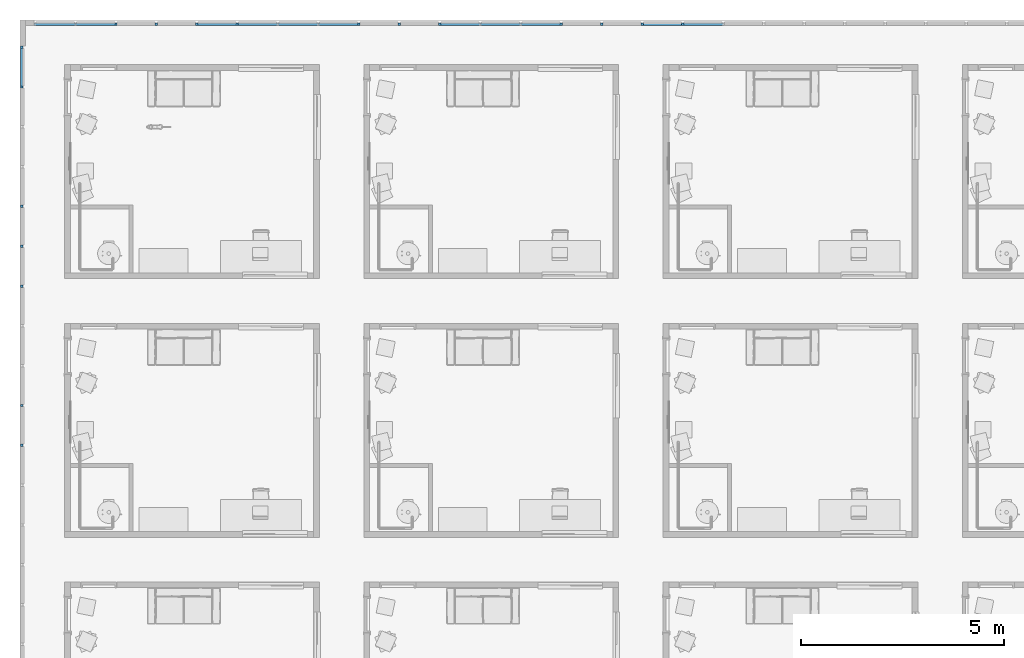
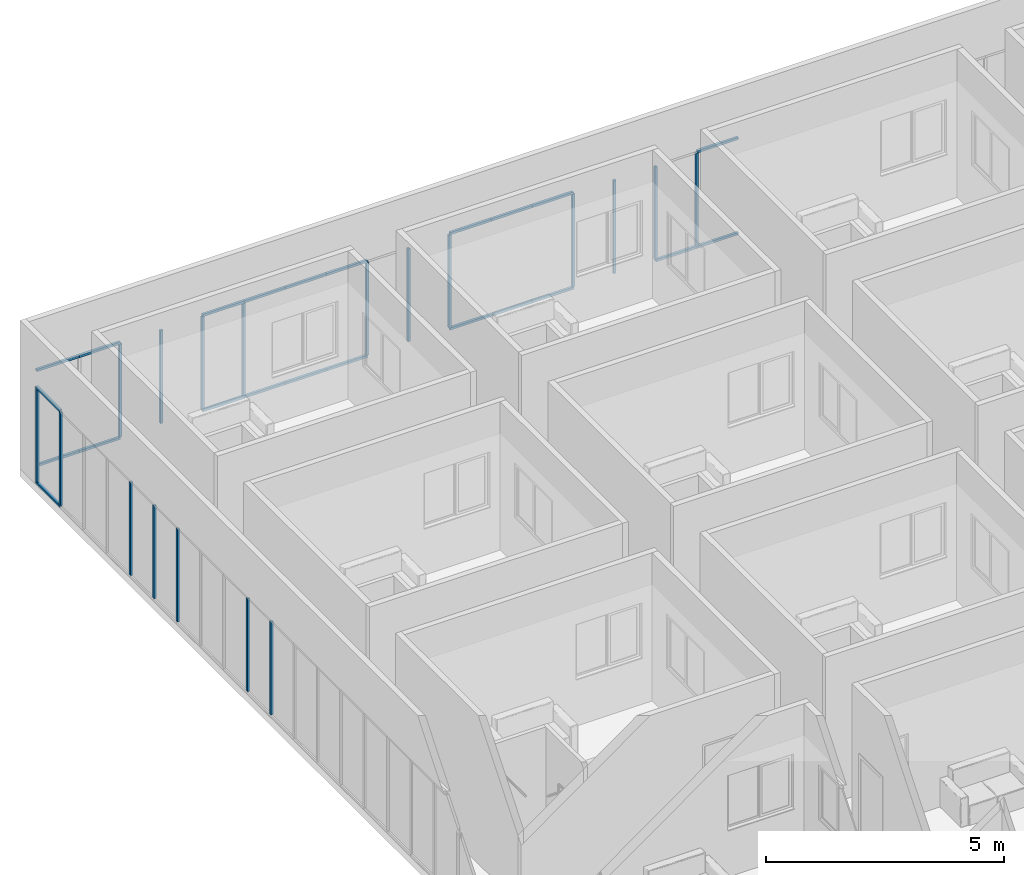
# One storey, part 2 of 71: 41 members, 2 elements without a shape of their own.
"""IFC4 building model written with IfcOpenShell, lengths in centimetres."""

from ifc_helpers import new_model, entity, si_unit, converted_unit, derived_unit, direction, frame, origin, place, context, subcontext, project, spatial, indexed_curve, outline, extrude, source, transform, mapped, material, type_object, type_shapes, element, aggregate, save


model = new_model("IFC4")

# Units and contexts
model_context = context("Model", 3, precision=0.001, world=origin(), true_north=direction((6.123233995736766e-17, 1.0)))
body_context = subcontext(model_context, "Body", "Model", "MODEL_VIEW")
ifc_project = project(units=[si_unit("LENGTHUNIT", "METRE", prefix="CENTI"), si_unit("AREAUNIT", "SQUARE_METRE"), si_unit("VOLUMEUNIT", "CUBIC_METRE"), derived_unit("THERMALTRANSMITTANCEUNIT", [(si_unit("MASSUNIT", "GRAM", prefix="KILO"), 1), (si_unit("THERMODYNAMICTEMPERATUREUNIT", "KELVIN"), -1), (si_unit("TIMEUNIT", "SECOND"), -3)]), converted_unit("PLANEANGLEUNIT", "DEGREE", entity("IfcPlaneAngleMeasure", 0.017453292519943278), si_unit("PLANEANGLEUNIT", "RADIAN"), dimensions=[0, 0, 0, 0, 0, 0, 0]), derived_unit("MASSDENSITYUNIT", [(si_unit("MASSUNIT", "GRAM", prefix="KILO"), 1), (si_unit("LENGTHUNIT", "METRE"), -3)]), derived_unit("VAPORPERMEABILITYUNIT", [(si_unit("LENGTHUNIT", "METRE"), -1), (si_unit("TIMEUNIT", "SECOND"), 1)]), derived_unit("USERDEFINED", [(si_unit("MASSUNIT", "GRAM", prefix="KILO"), 1), (si_unit("TIMEUNIT", "SECOND"), -3), (si_unit("LENGTHUNIT", "METRE"), 3), (si_unit("ELECTRICCURRENTUNIT", "AMPERE"), -2)]), derived_unit("SPECIFICHEATCAPACITYUNIT", [(si_unit("THERMODYNAMICTEMPERATUREUNIT", "KELVIN"), -1), (si_unit("LENGTHUNIT", "METRE"), 2), (si_unit("TIMEUNIT", "SECOND"), -2)]), derived_unit("THERMALCONDUCTANCEUNIT", [(si_unit("MASSUNIT", "GRAM", prefix="KILO"), 1), (si_unit("THERMODYNAMICTEMPERATUREUNIT", "KELVIN"), -1), (si_unit("TIMEUNIT", "SECOND"), -3), (si_unit("LENGTHUNIT", "METRE"), 1)]), si_unit("PRESSUREUNIT", "PASCAL"), derived_unit("MODULUSOFELASTICITYUNIT", [(si_unit("MASSUNIT", "GRAM", prefix="KILO"), 1), (si_unit("LENGTHUNIT", "METRE"), -1), (si_unit("TIMEUNIT", "SECOND"), -2)]), derived_unit("THERMALEXPANSIONCOEFFICIENTUNIT", [(si_unit("THERMODYNAMICTEMPERATUREUNIT", "KELVIN"), -1)])], contexts=[model_context])

# Site, building, storey
site_placement = place(None, origin())
site = spatial("IfcSite", under=ifc_project, at=site_placement, Name="Default", CompositionType="ELEMENT")
building_placement = place(site_placement, origin())
building = spatial("IfcBuilding", under=site, at=building_placement, Name="IDS Escape Game Building", CompositionType="ELEMENT")
storey_placement = place(building_placement, frame((0.0, 0.0, 400.0)))
storey = spatial("IfcBuildingStorey", under=building, at=storey_placement, Name="01_First Floor", CompositionType="ELEMENT", Elevation=399.99999999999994)

# Curtain wall, members
curtain_wall_type = type_object("IfcCurtainWallType", Name="Curtain Wall:ARC_31.3_CWA_LIB_bandraam vast 100cm - profiel 60x60_gen_BERSnl", PredefinedType="NOTDEFINED")
curtain_wall_1_placement = place(storey_placement, frame((0.0, 0.0, -400.0)))
curtain_wall_1 = element("IfcCurtainWall", 1, at=curtain_wall_1_placement, inside=storey, type_object=curtain_wall_type, Name="Curtain Wall:ARC_31.3_CWA_LIB_bandraam vast 100cm - profiel 60x60_gen_BERSnl", ObjectType="Curtain Wall:ARC_31.3_CWA_LIB_bandraam vast 100cm - profiel 60x60_gen_BERSnl", PredefinedType="NOTDEFINED")
ifc_material = material(Name="<Unnamed>")
member_type_1 = type_object("IfcMemberType", Name="Rectangular Mullion:30-_Stijl_Rechthoek_Midden_B60xD60", PredefinedType="MULLION", material=ifc_material)
shared_shape_1 = source(origin(), body_context, "Body", "SweptSolid", [
    extrude(outline(indexed_curve([(-3.0, -3.0), (3.0, -3.0), (3.0, 3.0), (-3.0, 3.0), (-3.0, -3.0)], self_intersect=False)), frame((-3.0, 3.0, -102.84313728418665), z_axis=(0.0, 0.0, 1.0), x_axis=(-1.0, 0.0, 0.0)), (0.0, 0.0, 1.0), 102.84313728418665),
])
type_shapes(member_type_1, [shared_shape_1])
member_1_placement = place(curtain_wall_1_placement, frame((19.84313728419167, 3182.0, 650.0), z_axis=(1.0, 0.0, 0.0), x_axis=(0.0, 0.0, 1.0)))
member_1 = element("IfcMember", 2, at=member_1_placement, type_object=member_type_1, material=ifc_material, Name="Rectangular Mullion:30-_Stijl_Rechthoek_Midden_B60xD60", ObjectType="Rectangular Mullion:30-_Stijl_Rechthoek_Midden_B60xD60", PredefinedType="MULLION", context=body_context, shape_type="MappedRepresentation", body=[
    mapped(shared_shape_1, transform((0.0, 0.0, 0.0), scale=1.0)),
])
member_type_2 = type_object("IfcMemberType", Name="Rectangular Mullion:30-_Stijl_Rechthoek_Midden_B60xD60", PredefinedType="MULLION", material=ifc_material)
shared_shape_2 = source(origin(), body_context, "Body", "SweptSolid", [
    extrude(outline(indexed_curve([(-3.0, -3.0), (3.0, -3.0), (3.0, 3.0), (-3.0, 3.0), (-3.0, -3.0)], self_intersect=False)), frame((-3.0, 3.0, -99.84313725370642), z_axis=(0.0, 0.0, 1.0), x_axis=(-1.0, 0.0, 0.0)), (0.0, 0.0, 1.0), 99.84313725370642),
])
type_shapes(member_type_2, [shared_shape_2])
member_2_placement = place(curtain_wall_1_placement, frame((119.68627453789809, 3182.0, 650.0), z_axis=(1.0, 0.0, 0.0), x_axis=(0.0, 0.0, 1.0)))
member_2 = element("IfcMember", 3, at=member_2_placement, type_object=member_type_2, material=ifc_material, Name="Rectangular Mullion:30-_Stijl_Rechthoek_Midden_B60xD60", ObjectType="Rectangular Mullion:30-_Stijl_Rechthoek_Midden_B60xD60", PredefinedType="MULLION", context=body_context, shape_type="MappedRepresentation", body=[
    mapped(shared_shape_2, transform((0.0, 0.0, 0.0), scale=1.0)),
])
member_3_placement = place(curtain_wall_1_placement, frame((419.2156862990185, 3182.0, 650.0), z_axis=(1.0, 0.0, 0.0), x_axis=(0.0, 0.0, 1.0)))
member_3 = element("IfcMember", 4, at=member_3_placement, type_object=member_type_2, material=ifc_material, Name="Rectangular Mullion:30-_Stijl_Rechthoek_Midden_B60xD60", ObjectType="Rectangular Mullion:30-_Stijl_Rechthoek_Midden_B60xD60", PredefinedType="MULLION", context=body_context, shape_type="MappedRepresentation", body=[
    mapped(shared_shape_2, transform((0.0, 0.0, 0.0), scale=1.0)),
])
member_4_placement = place(curtain_wall_1_placement, frame((519.0588235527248, 3182.0, 650.0), z_axis=(1.0, 0.0, 0.0), x_axis=(0.0, 0.0, 1.0)))
member_4 = element("IfcMember", 5, at=member_4_placement, type_object=member_type_2, material=ifc_material, Name="Rectangular Mullion:30-_Stijl_Rechthoek_Midden_B60xD60", ObjectType="Rectangular Mullion:30-_Stijl_Rechthoek_Midden_B60xD60", PredefinedType="MULLION", context=body_context, shape_type="MappedRepresentation", body=[
    mapped(shared_shape_2, transform((0.0, 0.0, 0.0), scale=1.0)),
])
member_5_placement = place(curtain_wall_1_placement, frame((618.9019608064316, 3182.0, 650.0), z_axis=(1.0, 0.0, 0.0), x_axis=(0.0, 0.0, 1.0)))
member_5 = element("IfcMember", 6, at=member_5_placement, type_object=member_type_2, material=ifc_material, Name="Rectangular Mullion:30-_Stijl_Rechthoek_Midden_B60xD60", ObjectType="Rectangular Mullion:30-_Stijl_Rechthoek_Midden_B60xD60", PredefinedType="MULLION", context=body_context, shape_type="MappedRepresentation", body=[
    mapped(shared_shape_2, transform((0.0, 0.0, 0.0), scale=1.0)),
])
member_6_placement = place(curtain_wall_1_placement, frame((718.7450980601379, 3182.0, 650.0), z_axis=(1.0, 0.0, 0.0), x_axis=(0.0, 0.0, 1.0)))
member_6 = element("IfcMember", 7, at=member_6_placement, type_object=member_type_2, material=ifc_material, Name="Rectangular Mullion:30-_Stijl_Rechthoek_Midden_B60xD60", ObjectType="Rectangular Mullion:30-_Stijl_Rechthoek_Midden_B60xD60", PredefinedType="MULLION", context=body_context, shape_type="MappedRepresentation", body=[
    mapped(shared_shape_2, transform((0.0, 0.0, 0.0), scale=1.0)),
])
member_7_placement = place(curtain_wall_1_placement, frame((1018.2745098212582, 3182.0, 650.0), z_axis=(1.0, 0.0, 0.0), x_axis=(0.0, 0.0, 1.0)))
member_7 = element("IfcMember", 8, at=member_7_placement, type_object=member_type_2, material=ifc_material, Name="Rectangular Mullion:30-_Stijl_Rechthoek_Midden_B60xD60", ObjectType="Rectangular Mullion:30-_Stijl_Rechthoek_Midden_B60xD60", PredefinedType="MULLION", context=body_context, shape_type="MappedRepresentation", body=[
    mapped(shared_shape_2, transform((0.0, 0.0, 0.0), scale=1.0)),
])
member_8_placement = place(curtain_wall_1_placement, frame((1118.1176470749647, 3182.0, 650.0), z_axis=(1.0, 0.0, 0.0), x_axis=(0.0, 0.0, 1.0)))
member_8 = element("IfcMember", 9, at=member_8_placement, type_object=member_type_2, material=ifc_material, Name="Rectangular Mullion:30-_Stijl_Rechthoek_Midden_B60xD60", ObjectType="Rectangular Mullion:30-_Stijl_Rechthoek_Midden_B60xD60", PredefinedType="MULLION", context=body_context, shape_type="MappedRepresentation", body=[
    mapped(shared_shape_2, transform((0.0, 0.0, 0.0), scale=1.0)),
])
member_9_placement = place(curtain_wall_1_placement, frame((1217.960784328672, 3182.0, 650.0), z_axis=(1.0, 0.0, 0.0), x_axis=(0.0, 0.0, 1.0)))
member_9 = element("IfcMember", 10, at=member_9_placement, type_object=member_type_2, material=ifc_material, Name="Rectangular Mullion:30-_Stijl_Rechthoek_Midden_B60xD60", ObjectType="Rectangular Mullion:30-_Stijl_Rechthoek_Midden_B60xD60", PredefinedType="MULLION", context=body_context, shape_type="MappedRepresentation", body=[
    mapped(shared_shape_2, transform((0.0, 0.0, 0.0), scale=1.0)),
])
member_10_placement = place(curtain_wall_1_placement, frame((1617.3333333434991, 3182.0, 650.0), z_axis=(1.0, 0.0, 0.0), x_axis=(0.0, 0.0, 1.0)))
member_10 = element("IfcMember", 11, at=member_10_placement, type_object=member_type_2, material=ifc_material, Name="Rectangular Mullion:30-_Stijl_Rechthoek_Midden_B60xD60", ObjectType="Rectangular Mullion:30-_Stijl_Rechthoek_Midden_B60xD60", PredefinedType="MULLION", context=body_context, shape_type="MappedRepresentation", body=[
    mapped(shared_shape_2, transform((0.0, 0.0, 0.0), scale=1.0)),
])
member_type_3 = type_object("IfcMemberType", Name="Rectangular Mullion:30-_Stijl_Rechthoek_Midden_B60xD60", PredefinedType="MULLION", material=ifc_material)
shared_shape_3 = source(origin(), body_context, "Body", "SweptSolid", [
    extrude(outline(indexed_curve([(-3.0, -3.0), (3.0, -3.0), (3.0, 3.0), (-3.0, 3.0), (-3.0, -3.0)], self_intersect=False)), frame((-3.0, 3.0, -102.84313728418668), z_axis=(0.0, 0.0, 1.0), x_axis=(-1.0, 0.0, 0.0)), (0.0, 0.0, 1.0), 102.84313728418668),
])
type_shapes(member_type_3, [shared_shape_3])
member_11_placement = place(curtain_wall_1_placement, frame((-83.0, 3182.0, 400.0), z_axis=(-1.0, 0.0, 0.0), x_axis=(0.0, 0.0, -1.0)))
member_11 = element("IfcMember", 12, at=member_11_placement, type_object=member_type_3, material=ifc_material, Name="Rectangular Mullion:30-_Stijl_Rechthoek_Midden_B60xD60", ObjectType="Rectangular Mullion:30-_Stijl_Rechthoek_Midden_B60xD60", PredefinedType="MULLION", context=body_context, shape_type="MappedRepresentation", body=[
    mapped(shared_shape_3, transform((0.0, 0.0, 0.0), scale=1.0)),
])
member_type_4 = type_object("IfcMemberType", Name="Rectangular Mullion:30-_Stijl_Rechthoek_Midden_B60xD60", PredefinedType="MULLION", material=ifc_material)
shared_shape_4 = source(origin(), body_context, "Body", "SweptSolid", [
    extrude(outline(indexed_curve([(-3.0, -3.0), (3.0, -3.0), (3.0, 3.0), (-3.0, 3.0), (-3.0, -3.0)], self_intersect=False)), frame((-3.0, 3.0, -99.84313725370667), z_axis=(0.0, 0.0, 1.0), x_axis=(-1.0, 0.0, 0.0)), (0.0, 0.0, 1.0), 99.84313725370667),
])
type_shapes(member_type_4, [shared_shape_4])
member_12_placement = place(curtain_wall_1_placement, frame((19.843137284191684, 3182.0, 400.0), z_axis=(-1.0, 0.0, 0.0), x_axis=(0.0, 0.0, -1.0)))
member_12 = element("IfcMember", 13, at=member_12_placement, type_object=member_type_4, material=ifc_material, Name="Rectangular Mullion:30-_Stijl_Rechthoek_Midden_B60xD60", ObjectType="Rectangular Mullion:30-_Stijl_Rechthoek_Midden_B60xD60", PredefinedType="MULLION", context=body_context, shape_type="MappedRepresentation", body=[
    mapped(shared_shape_4, transform((0.0, 0.0, 0.0), scale=1.0)),
])
member_13_placement = place(curtain_wall_1_placement, frame((319.3725490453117, 3182.0, 400.0), z_axis=(-1.0, 0.0, 0.0), x_axis=(0.0, 0.0, -1.0)))
member_13 = element("IfcMember", 14, at=member_13_placement, type_object=member_type_4, material=ifc_material, Name="Rectangular Mullion:30-_Stijl_Rechthoek_Midden_B60xD60", ObjectType="Rectangular Mullion:30-_Stijl_Rechthoek_Midden_B60xD60", PredefinedType="MULLION", context=body_context, shape_type="MappedRepresentation", body=[
    mapped(shared_shape_4, transform((0.0, 0.0, 0.0), scale=1.0)),
])
member_14_placement = place(curtain_wall_1_placement, frame((419.2156862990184, 3182.0, 400.0), z_axis=(-1.0, 0.0, 0.0), x_axis=(0.0, 0.0, -1.0)))
member_14 = element("IfcMember", 15, at=member_14_placement, type_object=member_type_4, material=ifc_material, Name="Rectangular Mullion:30-_Stijl_Rechthoek_Midden_B60xD60", ObjectType="Rectangular Mullion:30-_Stijl_Rechthoek_Midden_B60xD60", PredefinedType="MULLION", context=body_context, shape_type="MappedRepresentation", body=[
    mapped(shared_shape_4, transform((0.0, 0.0, 0.0), scale=1.0)),
])
member_15_placement = place(curtain_wall_1_placement, frame((519.0588235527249, 3182.0, 400.0), z_axis=(-1.0, 0.0, 0.0), x_axis=(0.0, 0.0, -1.0)))
member_15 = element("IfcMember", 16, at=member_15_placement, type_object=member_type_4, material=ifc_material, Name="Rectangular Mullion:30-_Stijl_Rechthoek_Midden_B60xD60", ObjectType="Rectangular Mullion:30-_Stijl_Rechthoek_Midden_B60xD60", PredefinedType="MULLION", context=body_context, shape_type="MappedRepresentation", body=[
    mapped(shared_shape_4, transform((0.0, 0.0, 0.0), scale=1.0)),
])
member_16_placement = place(curtain_wall_1_placement, frame((618.9019608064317, 3182.0, 400.0), z_axis=(-1.0, 0.0, 0.0), x_axis=(0.0, 0.0, -1.0)))
member_16 = element("IfcMember", 17, at=member_16_placement, type_object=member_type_4, material=ifc_material, Name="Rectangular Mullion:30-_Stijl_Rechthoek_Midden_B60xD60", ObjectType="Rectangular Mullion:30-_Stijl_Rechthoek_Midden_B60xD60", PredefinedType="MULLION", context=body_context, shape_type="MappedRepresentation", body=[
    mapped(shared_shape_4, transform((0.0, 0.0, 0.0), scale=1.0)),
])
member_17_placement = place(curtain_wall_1_placement, frame((918.4313725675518, 3182.0, 400.0), z_axis=(-1.0, 0.0, 0.0), x_axis=(0.0, 0.0, -1.0)))
member_17 = element("IfcMember", 18, at=member_17_placement, type_object=member_type_4, material=ifc_material, Name="Rectangular Mullion:30-_Stijl_Rechthoek_Midden_B60xD60", ObjectType="Rectangular Mullion:30-_Stijl_Rechthoek_Midden_B60xD60", PredefinedType="MULLION", context=body_context, shape_type="MappedRepresentation", body=[
    mapped(shared_shape_4, transform((0.0, 0.0, 0.0), scale=1.0)),
])
member_18_placement = place(curtain_wall_1_placement, frame((1018.2745098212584, 3182.0, 400.0), z_axis=(-1.0, 0.0, 0.0), x_axis=(0.0, 0.0, -1.0)))
member_18 = element("IfcMember", 19, at=member_18_placement, type_object=member_type_4, material=ifc_material, Name="Rectangular Mullion:30-_Stijl_Rechthoek_Midden_B60xD60", ObjectType="Rectangular Mullion:30-_Stijl_Rechthoek_Midden_B60xD60", PredefinedType="MULLION", context=body_context, shape_type="MappedRepresentation", body=[
    mapped(shared_shape_4, transform((0.0, 0.0, 0.0), scale=1.0)),
])
member_19_placement = place(curtain_wall_1_placement, frame((1118.1176470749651, 3182.0, 400.0), z_axis=(-1.0, 0.0, 0.0), x_axis=(0.0, 0.0, -1.0)))
member_19 = element("IfcMember", 20, at=member_19_placement, type_object=member_type_4, material=ifc_material, Name="Rectangular Mullion:30-_Stijl_Rechthoek_Midden_B60xD60", ObjectType="Rectangular Mullion:30-_Stijl_Rechthoek_Midden_B60xD60", PredefinedType="MULLION", context=body_context, shape_type="MappedRepresentation", body=[
    mapped(shared_shape_4, transform((0.0, 0.0, 0.0), scale=1.0)),
])
member_20_placement = place(curtain_wall_1_placement, frame((1417.6470588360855, 3182.0, 400.0), z_axis=(-1.0, 0.0, 0.0), x_axis=(0.0, 0.0, -1.0)))
member_20 = element("IfcMember", 21, at=member_20_placement, type_object=member_type_4, material=ifc_material, Name="Rectangular Mullion:30-_Stijl_Rechthoek_Midden_B60xD60", ObjectType="Rectangular Mullion:30-_Stijl_Rechthoek_Midden_B60xD60", PredefinedType="MULLION", context=body_context, shape_type="MappedRepresentation", body=[
    mapped(shared_shape_4, transform((0.0, 0.0, 0.0), scale=1.0)),
])
member_21_placement = place(curtain_wall_1_placement, frame((1517.4901960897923, 3182.0, 400.0), z_axis=(-1.0, 0.0, 0.0), x_axis=(0.0, 0.0, -1.0)))
member_21 = element("IfcMember", 22, at=member_21_placement, type_object=member_type_4, material=ifc_material, Name="Rectangular Mullion:30-_Stijl_Rechthoek_Midden_B60xD60", ObjectType="Rectangular Mullion:30-_Stijl_Rechthoek_Midden_B60xD60", PredefinedType="MULLION", context=body_context, shape_type="MappedRepresentation", body=[
    mapped(shared_shape_4, transform((0.0, 0.0, 0.0), scale=1.0)),
])

# Curtain wall, member
curtain_wall_2_placement = place(storey_placement, frame((0.0, 0.0, -400.0)))
curtain_wall_2 = element("IfcCurtainWall", 23, at=curtain_wall_2_placement, inside=storey, type_object=curtain_wall_type, Name="Curtain Wall:ARC_31.3_CWA_LIB_bandraam vast 100cm - profiel 60x60_gen_BERSnl", ObjectType="Curtain Wall:ARC_31.3_CWA_LIB_bandraam vast 100cm - profiel 60x60_gen_BERSnl", PredefinedType="NOTDEFINED")
member_type_5 = type_object("IfcMemberType", Name="Rectangular Mullion:30-_Stijl_Rechthoek_Midden_B60xD60", PredefinedType="MULLION", material=ifc_material)
shared_shape_5 = source(origin(), body_context, "Body", "SweptSolid", [
    extrude(outline(indexed_curve([(-3.0, -3.0), (3.0, -3.0), (3.0, 3.0), (-3.0, 3.0), (-3.0, -3.0)], self_intersect=False)), frame((-3.0, 3.0, -238.0), z_axis=(0.0, 0.0, 1.0), x_axis=(-1.0, 0.0, 0.0)), (0.0, 0.0, 1.0), 238.00000000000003),
])
type_shapes(member_type_5, [shared_shape_5])
member_22_placement = place(curtain_wall_2_placement, frame((-110.0, 3125.0, 644.0), z_axis=(0.0, 0.0, 1.0), x_axis=(0.0, 1.0, 0.0)))
member_22 = element("IfcMember", 24, at=member_22_placement, type_object=member_type_5, material=ifc_material, Name="Rectangular Mullion:30-_Stijl_Rechthoek_Midden_B60xD60", ObjectType="Rectangular Mullion:30-_Stijl_Rechthoek_Midden_B60xD60", PredefinedType="MULLION", context=body_context, shape_type="MappedRepresentation", body=[
    mapped(shared_shape_5, transform((0.0, 0.0, 0.0), scale=1.0)),
])

# Member
member_type_6 = type_object("IfcMemberType", Name="Rectangular Mullion:30-_Stijl_Rechthoek_Midden_B60xD60", PredefinedType="MULLION", material=ifc_material)
shared_shape_6 = source(origin(), body_context, "Body", "SweptSolid", [
    extrude(outline(indexed_curve([(-3.0, -3.0), (3.0, -3.0), (3.0, 3.0), (-3.0, 3.0), (-3.0, -3.0)], self_intersect=False)), frame((0.0, 3.0, -238.0), z_axis=(0.0, 0.0, 1.0), x_axis=(-1.0, 0.0, 0.0)), (0.0, 0.0, 1.0), 238.00000000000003),
])
type_shapes(member_type_6, [shared_shape_6])
member_23_placement = place(curtain_wall_1_placement, frame((119.68627453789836, 3182.0, 406.0), z_axis=(0.0, 0.0, -1.0), x_axis=(1.0, 0.0, 0.0)))
member_23 = element("IfcMember", 25, at=member_23_placement, type_object=member_type_6, material=ifc_material, Name="Rectangular Mullion:30-_Stijl_Rechthoek_Midden_B60xD60", ObjectType="Rectangular Mullion:30-_Stijl_Rechthoek_Midden_B60xD60", PredefinedType="MULLION", context=body_context, shape_type="MappedRepresentation", body=[
    mapped(shared_shape_6, transform((0.0, 0.0, 0.0), scale=1.0)),
])

member_24_placement = place(curtain_wall_1_placement, frame((219.52941179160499, 3182.0, 406.0), z_axis=(0.0, 0.0, -1.0), x_axis=(1.0, 0.0, 0.0)))
member_24 = element("IfcMember", 26, at=member_24_placement, type_object=member_type_6, material=ifc_material, Name="Rectangular Mullion:30-_Stijl_Rechthoek_Midden_B60xD60", ObjectType="Rectangular Mullion:30-_Stijl_Rechthoek_Midden_B60xD60", PredefinedType="MULLION", context=body_context, shape_type="MappedRepresentation", body=[
    mapped(shared_shape_6, transform((0.0, 0.0, 0.0), scale=1.0)),
])

member_25_placement = place(curtain_wall_1_placement, frame((319.3725490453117, 3182.0, 406.0), z_axis=(0.0, 0.0, -1.0), x_axis=(1.0, 0.0, 0.0)))
member_25 = element("IfcMember", 27, at=member_25_placement, type_object=member_type_6, material=ifc_material, Name="Rectangular Mullion:30-_Stijl_Rechthoek_Midden_B60xD60", ObjectType="Rectangular Mullion:30-_Stijl_Rechthoek_Midden_B60xD60", PredefinedType="MULLION", context=body_context, shape_type="MappedRepresentation", body=[
    mapped(shared_shape_6, transform((0.0, 0.0, 0.0), scale=1.0)),
])

member_26_placement = place(curtain_wall_1_placement, frame((419.2156862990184, 3182.0, 406.0), z_axis=(0.0, 0.0, -1.0), x_axis=(1.0, 0.0, 0.0)))
member_26 = element("IfcMember", 28, at=member_26_placement, type_object=member_type_6, material=ifc_material, Name="Rectangular Mullion:30-_Stijl_Rechthoek_Midden_B60xD60", ObjectType="Rectangular Mullion:30-_Stijl_Rechthoek_Midden_B60xD60", PredefinedType="MULLION", context=body_context, shape_type="MappedRepresentation", body=[
    mapped(shared_shape_6, transform((0.0, 0.0, 0.0), scale=1.0)),
])

member_27_placement = place(curtain_wall_1_placement, frame((718.7450980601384, 3182.0, 406.0), z_axis=(0.0, 0.0, -1.0), x_axis=(1.0, 0.0, 0.0)))
member_27 = element("IfcMember", 29, at=member_27_placement, type_object=member_type_6, material=ifc_material, Name="Rectangular Mullion:30-_Stijl_Rechthoek_Midden_B60xD60", ObjectType="Rectangular Mullion:30-_Stijl_Rechthoek_Midden_B60xD60", PredefinedType="MULLION", context=body_context, shape_type="MappedRepresentation", body=[
    mapped(shared_shape_6, transform((0.0, 0.0, 0.0), scale=1.0)),
])

member_28_placement = place(curtain_wall_1_placement, frame((818.5882353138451, 3182.0, 406.0), z_axis=(0.0, 0.0, -1.0), x_axis=(1.0, 0.0, 0.0)))
member_28 = element("IfcMember", 30, at=member_28_placement, type_object=member_type_6, material=ifc_material, Name="Rectangular Mullion:30-_Stijl_Rechthoek_Midden_B60xD60", ObjectType="Rectangular Mullion:30-_Stijl_Rechthoek_Midden_B60xD60", PredefinedType="MULLION", context=body_context, shape_type="MappedRepresentation", body=[
    mapped(shared_shape_6, transform((0.0, 0.0, 0.0), scale=1.0)),
])

member_29_placement = place(curtain_wall_1_placement, frame((918.4313725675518, 3182.0, 406.0), z_axis=(0.0, 0.0, -1.0), x_axis=(1.0, 0.0, 0.0)))
member_29 = element("IfcMember", 31, at=member_29_placement, type_object=member_type_6, material=ifc_material, Name="Rectangular Mullion:30-_Stijl_Rechthoek_Midden_B60xD60", ObjectType="Rectangular Mullion:30-_Stijl_Rechthoek_Midden_B60xD60", PredefinedType="MULLION", context=body_context, shape_type="MappedRepresentation", body=[
    mapped(shared_shape_6, transform((0.0, 0.0, 0.0), scale=1.0)),
])

member_30_placement = place(curtain_wall_1_placement, frame((1217.960784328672, 3182.0, 406.0), z_axis=(0.0, 0.0, -1.0), x_axis=(1.0, 0.0, 0.0)))
member_30 = element("IfcMember", 32, at=member_30_placement, type_object=member_type_6, material=ifc_material, Name="Rectangular Mullion:30-_Stijl_Rechthoek_Midden_B60xD60", ObjectType="Rectangular Mullion:30-_Stijl_Rechthoek_Midden_B60xD60", PredefinedType="MULLION", context=body_context, shape_type="MappedRepresentation", body=[
    mapped(shared_shape_6, transform((0.0, 0.0, 0.0), scale=1.0)),
])

member_31_placement = place(curtain_wall_1_placement, frame((1317.8039215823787, 3182.0, 406.0), z_axis=(0.0, 0.0, -1.0), x_axis=(1.0, 0.0, 0.0)))
member_31 = element("IfcMember", 33, at=member_31_placement, type_object=member_type_6, material=ifc_material, Name="Rectangular Mullion:30-_Stijl_Rechthoek_Midden_B60xD60", ObjectType="Rectangular Mullion:30-_Stijl_Rechthoek_Midden_B60xD60", PredefinedType="MULLION", context=body_context, shape_type="MappedRepresentation", body=[
    mapped(shared_shape_6, transform((0.0, 0.0, 0.0), scale=1.0)),
])

member_32_placement = place(curtain_wall_1_placement, frame((1417.6470588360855, 3182.0, 406.0), z_axis=(0.0, 0.0, -1.0), x_axis=(1.0, 0.0, 0.0)))
member_32 = element("IfcMember", 34, at=member_32_placement, type_object=member_type_6, material=ifc_material, Name="Rectangular Mullion:30-_Stijl_Rechthoek_Midden_B60xD60", ObjectType="Rectangular Mullion:30-_Stijl_Rechthoek_Midden_B60xD60", PredefinedType="MULLION", context=body_context, shape_type="MappedRepresentation", body=[
    mapped(shared_shape_6, transform((0.0, 0.0, 0.0), scale=1.0)),
])

member_33_placement = place(curtain_wall_1_placement, frame((1517.4901960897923, 3182.0, 406.0), z_axis=(0.0, 0.0, -1.0), x_axis=(1.0, 0.0, 0.0)))
member_33 = element("IfcMember", 35, at=member_33_placement, type_object=member_type_6, material=ifc_material, Name="Rectangular Mullion:30-_Stijl_Rechthoek_Midden_B60xD60", ObjectType="Rectangular Mullion:30-_Stijl_Rechthoek_Midden_B60xD60", PredefinedType="MULLION", context=body_context, shape_type="MappedRepresentation", body=[
    mapped(shared_shape_6, transform((0.0, 0.0, 0.0), scale=1.0)),
])

aggregate(curtain_wall_1, [member_1, member_2, member_3, member_4, member_5, member_6, member_7, member_8, member_9, member_10, member_11, member_12, member_13, member_14, member_15, member_16, member_17, member_18, member_19, member_20, member_21, member_23, member_24, member_25, member_26, member_27, member_28, member_29, member_30, member_31, member_32, member_33])

member_34_placement = place(curtain_wall_2_placement, frame((-110.0, 3023.80645158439, 406.0), z_axis=(0.0, 0.0, -1.0), x_axis=(0.0, -1.0, 0.0)))
member_34 = element("IfcMember", 36, at=member_34_placement, type_object=member_type_6, material=ifc_material, Name="Rectangular Mullion:30-_Stijl_Rechthoek_Midden_B60xD60", ObjectType="Rectangular Mullion:30-_Stijl_Rechthoek_Midden_B60xD60", PredefinedType="MULLION", context=body_context, shape_type="MappedRepresentation", body=[
    mapped(shared_shape_6, transform((0.0, 0.0, 0.0), scale=1.0)),
])

member_35_placement = place(curtain_wall_2_placement, frame((-110.0, 2729.2258064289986, 406.0), z_axis=(0.0, 0.0, -1.0), x_axis=(0.0, -1.0, 0.0)))
member_35 = element("IfcMember", 37, at=member_35_placement, type_object=member_type_6, material=ifc_material, Name="Rectangular Mullion:30-_Stijl_Rechthoek_Midden_B60xD60", ObjectType="Rectangular Mullion:30-_Stijl_Rechthoek_Midden_B60xD60", PredefinedType="MULLION", context=body_context, shape_type="MappedRepresentation", body=[
    mapped(shared_shape_6, transform((0.0, 0.0, 0.0), scale=1.0)),
])

member_36_placement = place(curtain_wall_2_placement, frame((-110.0, 2631.0322580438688, 406.0), z_axis=(0.0, 0.0, -1.0), x_axis=(0.0, -1.0, 0.0)))
member_36 = element("IfcMember", 38, at=member_36_placement, type_object=member_type_6, material=ifc_material, Name="Rectangular Mullion:30-_Stijl_Rechthoek_Midden_B60xD60", ObjectType="Rectangular Mullion:30-_Stijl_Rechthoek_Midden_B60xD60", PredefinedType="MULLION", context=body_context, shape_type="MappedRepresentation", body=[
    mapped(shared_shape_6, transform((0.0, 0.0, 0.0), scale=1.0)),
])

member_37_placement = place(curtain_wall_2_placement, frame((-110.0, 2532.8387096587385, 406.0), z_axis=(0.0, 0.0, -1.0), x_axis=(0.0, -1.0, 0.0)))
member_37 = element("IfcMember", 39, at=member_37_placement, type_object=member_type_6, material=ifc_material, Name="Rectangular Mullion:30-_Stijl_Rechthoek_Midden_B60xD60", ObjectType="Rectangular Mullion:30-_Stijl_Rechthoek_Midden_B60xD60", PredefinedType="MULLION", context=body_context, shape_type="MappedRepresentation", body=[
    mapped(shared_shape_6, transform((0.0, 0.0, 0.0), scale=1.0)),
])

member_38_placement = place(curtain_wall_2_placement, frame((-110.0, 2238.258064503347, 406.0), z_axis=(0.0, 0.0, -1.0), x_axis=(0.0, -1.0, 0.0)))
member_38 = element("IfcMember", 40, at=member_38_placement, type_object=member_type_6, material=ifc_material, Name="Rectangular Mullion:30-_Stijl_Rechthoek_Midden_B60xD60", ObjectType="Rectangular Mullion:30-_Stijl_Rechthoek_Midden_B60xD60", PredefinedType="MULLION", context=body_context, shape_type="MappedRepresentation", body=[
    mapped(shared_shape_6, transform((0.0, 0.0, 0.0), scale=1.0)),
])

member_39_placement = place(curtain_wall_2_placement, frame((-110.0, 2140.0645161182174, 406.0), z_axis=(0.0, 0.0, -1.0), x_axis=(0.0, -1.0, 0.0)))
member_39 = element("IfcMember", 41, at=member_39_placement, type_object=member_type_6, material=ifc_material, Name="Rectangular Mullion:30-_Stijl_Rechthoek_Midden_B60xD60", ObjectType="Rectangular Mullion:30-_Stijl_Rechthoek_Midden_B60xD60", PredefinedType="MULLION", context=body_context, shape_type="MappedRepresentation", body=[
    mapped(shared_shape_6, transform((0.0, 0.0, 0.0), scale=1.0)),
])

member_type_7 = type_object("IfcMemberType", Name="Rectangular Mullion:30-_Stijl_Rechthoek_Midden_B60xD60", PredefinedType="MULLION", material=ifc_material)
shared_shape_7 = source(origin(), body_context, "Body", "SweptSolid", [
    extrude(outline(indexed_curve([(-3.0, -3.0), (3.0, -3.0), (3.0, 3.0), (-3.0, 3.0), (-3.0, -3.0)], self_intersect=False)), frame((-3.0, 3.0, -101.1935484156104), z_axis=(0.0, 0.0, 1.0), x_axis=(-1.0, 0.0, 0.0)), (0.0, 0.0, 1.0), 101.1935484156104),
])
type_shapes(member_type_7, [shared_shape_7])
member_40_placement = place(curtain_wall_2_placement, frame((-110.0, 3023.80645158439, 650.0), z_axis=(0.0, -1.0, 0.0), x_axis=(0.0, 0.0, 1.0)))
member_40 = element("IfcMember", 42, at=member_40_placement, type_object=member_type_7, material=ifc_material, Name="Rectangular Mullion:30-_Stijl_Rechthoek_Midden_B60xD60", ObjectType="Rectangular Mullion:30-_Stijl_Rechthoek_Midden_B60xD60", PredefinedType="MULLION", context=body_context, shape_type="MappedRepresentation", body=[
    mapped(shared_shape_7, transform((0.0, 0.0, 0.0), scale=1.0)),
])

member_type_8 = type_object("IfcMemberType", Name="Rectangular Mullion:30-_Stijl_Rechthoek_Midden_B60xD60", PredefinedType="MULLION", material=ifc_material)
shared_shape_8 = source(origin(), body_context, "Body", "SweptSolid", [
    extrude(outline(indexed_curve([(-3.0, -3.0), (3.0, -3.0), (3.0, 3.0), (-3.0, 3.0), (-3.0, -3.0)], self_intersect=False)), frame((-3.0, 3.0, -101.1935484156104), z_axis=(0.0, 0.0, 1.0), x_axis=(-1.0, 0.0, 0.0)), (0.0, 0.0, 1.0), 101.1935484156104),
])
type_shapes(member_type_8, [shared_shape_8])
member_41_placement = place(curtain_wall_2_placement, frame((-110.0, 3125.0, 400.0), z_axis=(0.0, 1.0, 0.0), x_axis=(0.0, 0.0, -1.0)))
member_41 = element("IfcMember", 43, at=member_41_placement, type_object=member_type_8, material=ifc_material, Name="Rectangular Mullion:30-_Stijl_Rechthoek_Midden_B60xD60", ObjectType="Rectangular Mullion:30-_Stijl_Rechthoek_Midden_B60xD60", PredefinedType="MULLION", context=body_context, shape_type="MappedRepresentation", body=[
    mapped(shared_shape_8, transform((0.0, 0.0, 0.0), scale=1.0)),
])

aggregate(curtain_wall_2, [member_40, member_41, member_22, member_34, member_35, member_36, member_37, member_38, member_39])

save(model, "model.ifc")
